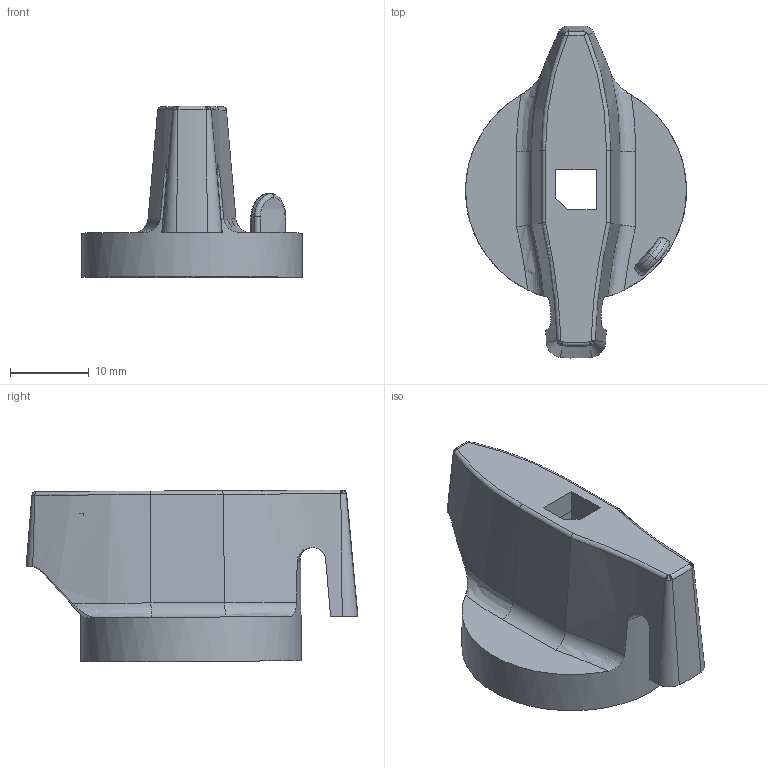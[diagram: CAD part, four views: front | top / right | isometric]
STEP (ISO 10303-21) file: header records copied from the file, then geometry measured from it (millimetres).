
FILE_DESCRIPTION (( 'STEP AP214' ), '1' );
FILE_NAME ('Ðóêîÿòêà íåïîñðåäñòâåííîãî ìîíòàæà êðàñíàÿ OptiSwitch DI-80-125 (äëÿ OptiSwitch DI-80-125Ñ).STEP', '2023-03-26T21:33:23', ( 'Ïîëüçîâàòåëü' ), ( '' ), 'SwSTEP 2.0', 'SolidWorks 2018', '' );
FILE_SCHEMA (( 'AUTOMOTIVE_DESIGN' ));
Length unit declared in the file: millimetre
Products named in the file (2): Ðóêîÿòêà íåïîñðåäñòâåííîãî ìîíòàæà êðàñíàÿ OptiSwitch DI-80-125; Ðóêîÿòêà íåïîñðåäñòâåííîãî ìîíòàæà êðàñíàÿ OptiSwitch DI-80-125 (äëÿ OptiSwitch DI-80-125Ñ)
Assembly tree (1 placements, depth 2):
  Ðóêîÿòêà íåïîñðåäñòâåííîãî ìîíòàæà êðàñíàÿ OptiSwitch DI-80-125 (äëÿ OptiSwitch DI-80-125Ñ)
    Ðóêîÿòêà íåïîñðåäñòâåííîãî ìîíòàæà êðàñíàÿ OptiSwitch DI-80-125
Bounding box: 27.97 x 42.05 x 21.77 mm (x, y, z)
Volume: 5454.4 mm3; surface area: 4564.6 mm2
Topology: 1 solids, 1 shells, 111 faces, 286 edges, 176 vertices
Faces by surface type: plane 35, bspline 35, cylinder 23, torus 9, cone 9
Full cylindrical faces by diameter (mm): 23.6 x1, 28 x1
Entity records: 6457 total; most frequent: CARTESIAN_POINT 4062, ORIENTED_EDGE 558, DIRECTION 377, EDGE_CURVE 279, VERTEX_POINT 175, AXIS2_PLACEMENT_3D 143, B_SPLINE_CURVE_WITH_KNOTS 124, EDGE_LOOP 118
